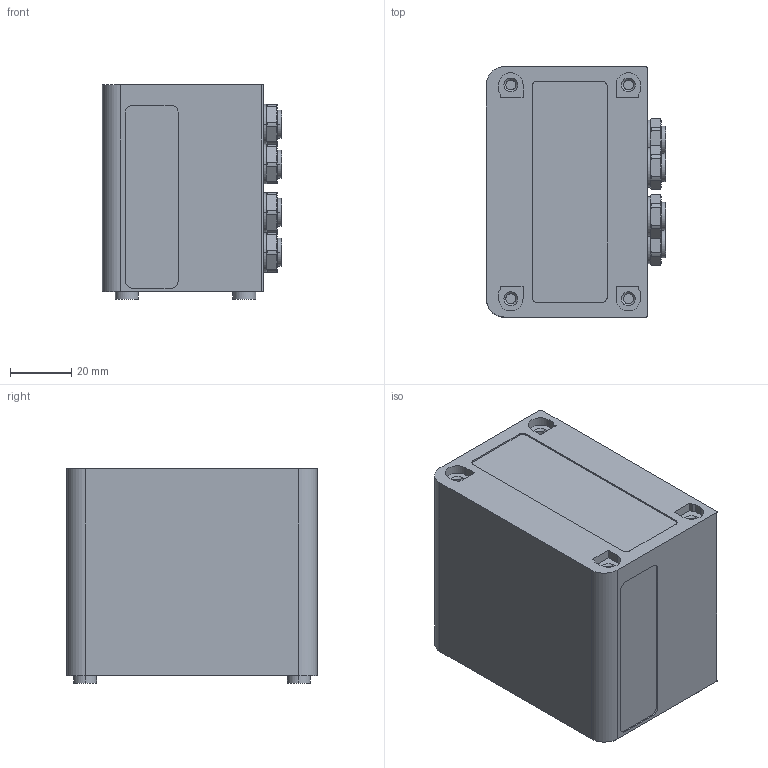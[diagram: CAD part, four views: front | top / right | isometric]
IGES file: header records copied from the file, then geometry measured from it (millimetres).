
Global section: file name: No Iges File Name specified; native system: Autodesk Inventor 2010; preprocessor: AutoDesk Inventor Iges Exporter R2010; author: rivolro1; date: 20100413.102222; units: millimetre
Bounding box: 58.7 x 82 x 70.2 mm (x, y, z)
Volume: 293746.8 mm3; surface area: 31532.1 mm2
Topology: 1 solids, 1 shells, 689 faces, 1662 edges, 1076 vertices
Faces by surface type: bspline 307, plane 190, revolution 76, cylinder 60, cone 56
